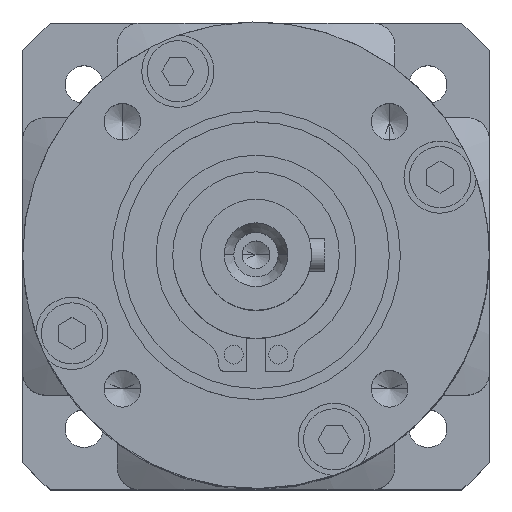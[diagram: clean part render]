
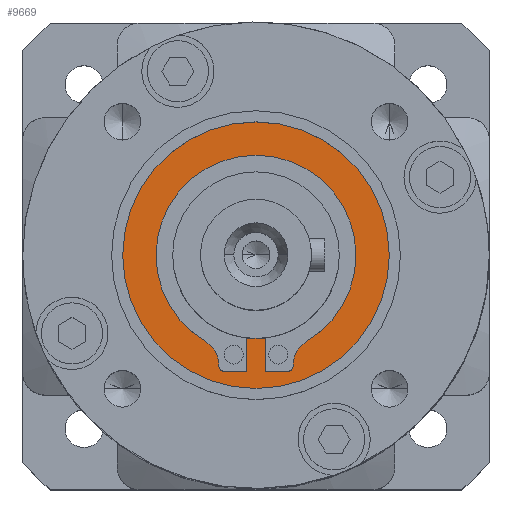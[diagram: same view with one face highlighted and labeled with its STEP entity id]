
A CAD part, top view. The second image highlights one B-rep face of the part: STEP entity #9669.
In plain terms, the highlighted planar face has unit normal (0, 0, 1).
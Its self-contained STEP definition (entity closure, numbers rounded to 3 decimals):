
#62 = EDGE_CURVE ( 'NONE', #16975, #5449, #15584, .T. ) ;
#161 = ORIENTED_EDGE ( 'NONE', *, *, #31873, .F. ) ;
#372 = DIRECTION ( 'NONE',  ( -1., 0., 0. ) ) ;
#768 = VECTOR ( 'NONE', #31258, 1000. ) ;
#1200 = ORIENTED_EDGE ( 'NONE', *, *, #18644, .F. ) ;
#1580 = ORIENTED_EDGE ( 'NONE', *, *, #22913, .F. ) ;
#1691 = DIRECTION ( 'NONE',  ( 0., 0., -1. ) ) ;
#1692 = DIRECTION ( 'NONE',  ( -1., 0., 0. ) ) ;
#1926 = CARTESIAN_POINT ( 'NONE',  ( 0., -10.452, -2.5 ) ) ;
#1939 = ORIENTED_EDGE ( 'NONE', *, *, #30116, .F. ) ;
#2225 = AXIS2_PLACEMENT_3D ( 'NONE', #37252, #1691, #24746 ) ;
#2598 = EDGE_CURVE ( 'NONE', #5723, #19437, #3349, .T. ) ;
#2779 = DIRECTION ( 'NONE',  ( 0., 0., 1. ) ) ;
#3046 = CARTESIAN_POINT ( 'NONE',  ( 4.578, -7.749, -2.5 ) ) ;
#3090 = EDGE_CURVE ( 'NONE', #39063, #13343, #18304, .T. ) ;
#3349 = CIRCLE ( 'NONE', #20282, 12. ) ;
#3651 = LINE ( 'NONE', #19349, #20151 ) ;
#4276 = LINE ( 'NONE', #1926, #20786 ) ;
#4480 = AXIS2_PLACEMENT_3D ( 'NONE', #18048, #41005, #21330 ) ;
#4601 = ORIENTED_EDGE ( 'NONE', *, *, #2598, .T. ) ;
#4659 = ORIENTED_EDGE ( 'NONE', *, *, #25748, .F. ) ;
#4667 = EDGE_CURVE ( 'NONE', #41764, #27322, #42368, .T. ) ;
#5154 = CARTESIAN_POINT ( 'NONE',  ( -0.85, -7.452, -2.5 ) ) ;
#5449 = VERTEX_POINT ( 'NONE', #38796 ) ;
#5723 = VERTEX_POINT ( 'NONE', #11164 ) ;
#7713 = EDGE_CURVE ( 'NONE', #17147, #16975, #42691, .T. ) ;
#8564 = LINE ( 'NONE', #22326, #34815 ) ;
#9165 = CARTESIAN_POINT ( 'NONE',  ( 0., 0., -2.5 ) ) ;
#9213 = CARTESIAN_POINT ( 'NONE',  ( 0., 0., -2.5 ) ) ;
#9264 = VERTEX_POINT ( 'NONE', #25960 ) ;
#9669 = ADVANCED_FACE ( 'NONE', ( #42080, #21497 ), #31218, .F. ) ;
#10797 = CIRCLE ( 'NONE', #20326, 7.5 ) ;
#11164 = CARTESIAN_POINT ( 'NONE',  ( -12., 0., -2.5 ) ) ;
#11169 = DIRECTION ( 'NONE',  ( 1., 0., 0. ) ) ;
#11449 = CARTESIAN_POINT ( 'NONE',  ( 0.85, -10.452, -2.5 ) ) ;
#11570 = CARTESIAN_POINT ( 'NONE',  ( 0., -10.452, -2.5 ) ) ;
#11847 = ORIENTED_EDGE ( 'NONE', *, *, #34584, .T. ) ;
#12104 = CARTESIAN_POINT ( 'NONE',  ( -0.85, -10.452, -2.5 ) ) ;
#12131 = DIRECTION ( 'NONE',  ( 0., 0., -1. ) ) ;
#12319 = CARTESIAN_POINT ( 'NONE',  ( -2.85, -9.952, -2.5 ) ) ;
#12346 = ORIENTED_EDGE ( 'NONE', *, *, #27349, .F. ) ;
#12420 = DIRECTION ( 'NONE',  ( 0., 1., 0. ) ) ;
#12471 = DIRECTION ( 'NONE',  ( 1., 0., 0. ) ) ;
#12524 = DIRECTION ( 'NONE',  ( -1., 0., 0. ) ) ;
#12787 = AXIS2_PLACEMENT_3D ( 'NONE', #31813, #12131, #35102 ) ;
#12940 = VERTEX_POINT ( 'NONE', #12104 ) ;
#13343 = VERTEX_POINT ( 'NONE', #31029 ) ;
#13666 = CARTESIAN_POINT ( 'NONE',  ( -3.35, -9.901, -2.5 ) ) ;
#13770 = AXIS2_PLACEMENT_3D ( 'NONE', #39784, #20107, #372 ) ;
#14595 = CIRCLE ( 'NONE', #4480, 9. ) ;
#14984 = LINE ( 'NONE', #11570, #39141 ) ;
#15223 = CARTESIAN_POINT ( 'NONE',  ( 2.85, -10.452, -2.5 ) ) ;
#15584 = CIRCLE ( 'NONE', #30752, 9. ) ;
#15646 = DIRECTION ( 'NONE',  ( -1., 0., 0. ) ) ;
#15970 = CARTESIAN_POINT ( 'NONE',  ( 0.85, 0., -2.5 ) ) ;
#16487 = ORIENTED_EDGE ( 'NONE', *, *, #3090, .F. ) ;
#16975 = VERTEX_POINT ( 'NONE', #3046 ) ;
#17147 = VERTEX_POINT ( 'NONE', #27076 ) ;
#17208 = VERTEX_POINT ( 'NONE', #5154 ) ;
#17880 = CARTESIAN_POINT ( 'NONE',  ( 0., 0., -2.5 ) ) ;
#18047 = CARTESIAN_POINT ( 'NONE',  ( -3.35, 0., -2.5 ) ) ;
#18048 = CARTESIAN_POINT ( 'NONE',  ( 0., 0., -2.5 ) ) ;
#18133 = CIRCLE ( 'NONE', #12787, 2.5 ) ;
#18160 = EDGE_CURVE ( 'NONE', #35192, #36558, #40253, .T. ) ;
#18304 = LINE ( 'NONE', #18047, #768 ) ;
#18644 = EDGE_CURVE ( 'NONE', #9264, #39063, #18133, .T. ) ;
#18855 = AXIS2_PLACEMENT_3D ( 'NONE', #22504, #2779, #25822 ) ;
#19220 = ORIENTED_EDGE ( 'NONE', *, *, #62, .F. ) ;
#19230 = CARTESIAN_POINT ( 'NONE',  ( 0., 0., -2.5 ) ) ;
#19349 = CARTESIAN_POINT ( 'NONE',  ( -0.85, 0., -2.5 ) ) ;
#19410 = EDGE_CURVE ( 'NONE', #27322, #35192, #14984, .T. ) ;
#19437 = VERTEX_POINT ( 'NONE', #21920 ) ;
#20107 = DIRECTION ( 'NONE',  ( 0., 0., -1. ) ) ;
#20151 = VECTOR ( 'NONE', #22652, 1000. ) ;
#20282 = AXIS2_PLACEMENT_3D ( 'NONE', #9165, #32184, #12471 ) ;
#20326 = AXIS2_PLACEMENT_3D ( 'NONE', #19230, #42204, #22523 ) ;
#20632 = ORIENTED_EDGE ( 'NONE', *, *, #22633, .F. ) ;
#20786 = VECTOR ( 'NONE', #11169, 1000. ) ;
#21160 = DIRECTION ( 'NONE',  ( 1., 0., 0. ) ) ;
#21330 = DIRECTION ( 'NONE',  ( -1., 0., 0. ) ) ;
#21424 = DIRECTION ( 'NONE',  ( 0., 0., 1. ) ) ;
#21497 = FACE_BOUND ( 'NONE', #23289, .T. ) ;
#21920 = CARTESIAN_POINT ( 'NONE',  ( 12., 0., -2.5 ) ) ;
#22326 = CARTESIAN_POINT ( 'NONE',  ( 3.35, 0., -2.5 ) ) ;
#22504 = CARTESIAN_POINT ( 'NONE',  ( 2.85, -9.952, -2.5 ) ) ;
#22523 = DIRECTION ( 'NONE',  ( -1., 0., 0. ) ) ;
#22633 = EDGE_CURVE ( 'NONE', #30018, #12940, #4276, .T. ) ;
#22652 = DIRECTION ( 'NONE',  ( 0., 1., 0. ) ) ;
#22790 = CIRCLE ( 'NONE', #42539, 12. ) ;
#22913 = EDGE_CURVE ( 'NONE', #37464, #9264, #14595, .T. ) ;
#23289 = EDGE_LOOP ( 'NONE', ( #4659, #16487, #1200, #1580, #161, #19220, #37113, #1939, #32751, #30758, #38281, #12346, #37015, #20632 ) ) ;
#23879 = CARTESIAN_POINT ( 'NONE',  ( 3.35, -9.952, -2.5 ) ) ;
#24504 = EDGE_CURVE ( 'NONE', #12940, #17208, #3651, .T. ) ;
#24746 = DIRECTION ( 'NONE',  ( -1., 0., 0. ) ) ;
#25245 = CIRCLE ( 'NONE', #33224, 0.5 ) ;
#25748 = EDGE_CURVE ( 'NONE', #13343, #30018, #25245, .T. ) ;
#25822 = DIRECTION ( 'NONE',  ( -1., 0., 0. ) ) ;
#25880 = DIRECTION ( 'NONE',  ( 0., -1., 0. ) ) ;
#25960 = CARTESIAN_POINT ( 'NONE',  ( -4.578, -7.749, -2.5 ) ) ;
#27066 = AXIS2_PLACEMENT_3D ( 'NONE', #9213, #32227, #12524 ) ;
#27076 = CARTESIAN_POINT ( 'NONE',  ( 3.35, -9.901, -2.5 ) ) ;
#27322 = VERTEX_POINT ( 'NONE', #11449 ) ;
#27349 = EDGE_CURVE ( 'NONE', #17208, #41764, #10797, .T. ) ;
#28110 = CARTESIAN_POINT ( 'NONE',  ( -2.85, -10.452, -2.5 ) ) ;
#30018 = VERTEX_POINT ( 'NONE', #28110 ) ;
#30116 = EDGE_CURVE ( 'NONE', #36558, #17147, #8564, .T. ) ;
#30752 = AXIS2_PLACEMENT_3D ( 'NONE', #41107, #21424, #1692 ) ;
#30758 = ORIENTED_EDGE ( 'NONE', *, *, #19410, .F. ) ;
#31029 = CARTESIAN_POINT ( 'NONE',  ( -3.35, -9.952, -2.5 ) ) ;
#31218 = PLANE ( 'NONE',  #2225 ) ;
#31258 = DIRECTION ( 'NONE',  ( 0., -1., 0. ) ) ;
#31813 = CARTESIAN_POINT ( 'NONE',  ( -5.85, -9.901, -2.5 ) ) ;
#31873 = EDGE_CURVE ( 'NONE', #5449, #37464, #39388, .T. ) ;
#32184 = DIRECTION ( 'NONE',  ( 0., 0., 1. ) ) ;
#32227 = DIRECTION ( 'NONE',  ( 0., 0., 1. ) ) ;
#32522 = CARTESIAN_POINT ( 'NONE',  ( 0.85, -7.452, -2.5 ) ) ;
#32751 = ORIENTED_EDGE ( 'NONE', *, *, #18160, .F. ) ;
#33224 = AXIS2_PLACEMENT_3D ( 'NONE', #12319, #35289, #15646 ) ;
#34109 = EDGE_LOOP ( 'NONE', ( #11847, #4601 ) ) ;
#34584 = EDGE_CURVE ( 'NONE', #19437, #5723, #22790, .T. ) ;
#34815 = VECTOR ( 'NONE', #12420, 1000. ) ;
#34989 = DIRECTION ( 'NONE',  ( 1., 0., 0. ) ) ;
#35040 = CARTESIAN_POINT ( 'NONE',  ( -9., 0., -2.5 ) ) ;
#35102 = DIRECTION ( 'NONE',  ( -1., 0., 0. ) ) ;
#35192 = VERTEX_POINT ( 'NONE', #15223 ) ;
#35289 = DIRECTION ( 'NONE',  ( 0., 0., 1. ) ) ;
#36558 = VERTEX_POINT ( 'NONE', #23879 ) ;
#37015 = ORIENTED_EDGE ( 'NONE', *, *, #24504, .F. ) ;
#37113 = ORIENTED_EDGE ( 'NONE', *, *, #7713, .F. ) ;
#37252 = CARTESIAN_POINT ( 'NONE',  ( 0., 0., -2.5 ) ) ;
#37464 = VERTEX_POINT ( 'NONE', #35040 ) ;
#38281 = ORIENTED_EDGE ( 'NONE', *, *, #4667, .F. ) ;
#38796 = CARTESIAN_POINT ( 'NONE',  ( 9., 0., -2.5 ) ) ;
#39063 = VERTEX_POINT ( 'NONE', #13666 ) ;
#39141 = VECTOR ( 'NONE', #34989, 1000. ) ;
#39388 = CIRCLE ( 'NONE', #27066, 9. ) ;
#39784 = CARTESIAN_POINT ( 'NONE',  ( 5.85, -9.901, -2.5 ) ) ;
#40253 = CIRCLE ( 'NONE', #18855, 0.5 ) ;
#40307 = VECTOR ( 'NONE', #25880, 1000. ) ;
#40846 = DIRECTION ( 'NONE',  ( 0., 0., 1. ) ) ;
#41005 = DIRECTION ( 'NONE',  ( 0., 0., 1. ) ) ;
#41107 = CARTESIAN_POINT ( 'NONE',  ( 0., 0., -2.5 ) ) ;
#41764 = VERTEX_POINT ( 'NONE', #32522 ) ;
#42080 = FACE_OUTER_BOUND ( 'NONE', #34109, .T. ) ;
#42204 = DIRECTION ( 'NONE',  ( 0., 0., 1. ) ) ;
#42368 = LINE ( 'NONE', #15970, #40307 ) ;
#42539 = AXIS2_PLACEMENT_3D ( 'NONE', #17880, #40846, #21160 ) ;
#42691 = CIRCLE ( 'NONE', #13770, 2.5 ) ;
